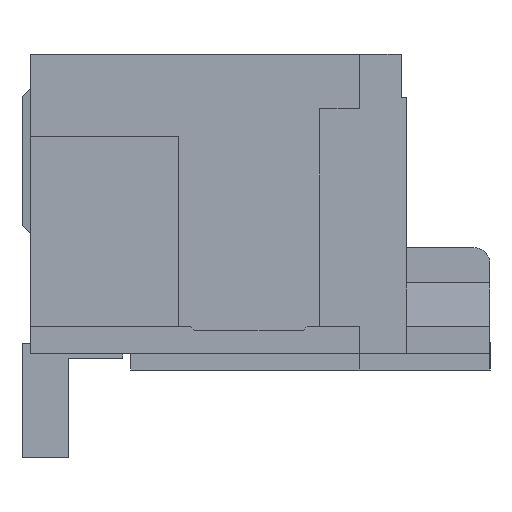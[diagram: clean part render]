
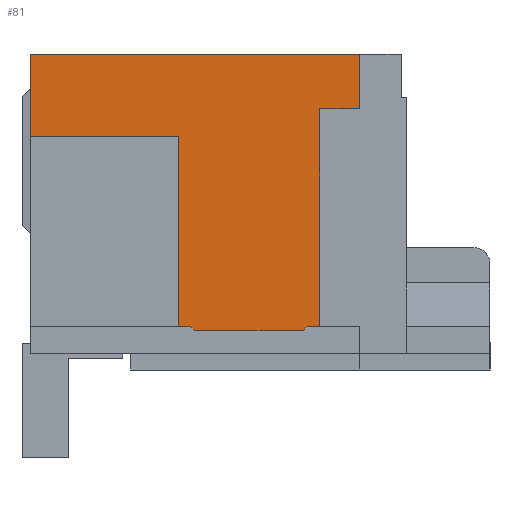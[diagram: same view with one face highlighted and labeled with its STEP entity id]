
A CAD part, left-side view. The second image highlights one B-rep face of the part: STEP entity #81.
In plain terms, the highlighted planar face has unit normal (-1, 0, 0).
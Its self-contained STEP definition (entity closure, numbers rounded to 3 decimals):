
#81=ADVANCED_FACE('',(#433),#265,.F.);
#265=PLANE('',#3538);
#433=FACE_OUTER_BOUND('',#615,.T.);
#615=EDGE_LOOP('',(#808,#809,#810,#811,#812,#813,#814,#815,#816,#817,#818,
#819));
#808=ORIENTED_EDGE('',*,*,#2108,.F.);
#809=ORIENTED_EDGE('',*,*,#2109,.F.);
#810=ORIENTED_EDGE('',*,*,#2110,.F.);
#811=ORIENTED_EDGE('',*,*,#2111,.F.);
#812=ORIENTED_EDGE('',*,*,#2112,.F.);
#813=ORIENTED_EDGE('',*,*,#2113,.F.);
#814=ORIENTED_EDGE('',*,*,#2114,.F.);
#815=ORIENTED_EDGE('',*,*,#2115,.F.);
#816=ORIENTED_EDGE('',*,*,#2116,.F.);
#817=ORIENTED_EDGE('',*,*,#2117,.F.);
#818=ORIENTED_EDGE('',*,*,#2118,.F.);
#819=ORIENTED_EDGE('',*,*,#2119,.F.);
#1792=VERTEX_POINT('',#4638);
#1793=VERTEX_POINT('',#4639);
#1794=VERTEX_POINT('',#4641);
#1795=VERTEX_POINT('',#4643);
#1796=VERTEX_POINT('',#4645);
#1797=VERTEX_POINT('',#4647);
#1798=VERTEX_POINT('',#4649);
#1799=VERTEX_POINT('',#4651);
#1800=VERTEX_POINT('',#4653);
#1801=VERTEX_POINT('',#4655);
#1802=VERTEX_POINT('',#4657);
#1803=VERTEX_POINT('',#4659);
#2108=EDGE_CURVE('',#1792,#1793,#2600,.T.);
#2109=EDGE_CURVE('',#1794,#1792,#2601,.T.);
#2110=EDGE_CURVE('',#1795,#1794,#2602,.T.);
#2111=EDGE_CURVE('',#1796,#1795,#2603,.T.);
#2112=EDGE_CURVE('',#1797,#1796,#2604,.T.);
#2113=EDGE_CURVE('',#1798,#1797,#2605,.T.);
#2114=EDGE_CURVE('',#1799,#1798,#2606,.T.);
#2115=EDGE_CURVE('',#1800,#1799,#2607,.T.);
#2116=EDGE_CURVE('',#1801,#1800,#2608,.T.);
#2117=EDGE_CURVE('',#1802,#1801,#2609,.T.);
#2118=EDGE_CURVE('',#1803,#1802,#2610,.T.);
#2119=EDGE_CURVE('',#1793,#1803,#2611,.T.);
#2600=LINE('',#4637,#3070);
#2601=LINE('',#4640,#3071);
#2602=LINE('',#4642,#3072);
#2603=LINE('',#4644,#3073);
#2604=LINE('',#4646,#3074);
#2605=LINE('',#4648,#3075);
#2606=LINE('',#4650,#3076);
#2607=LINE('',#4652,#3077);
#2608=LINE('',#4654,#3078);
#2609=LINE('',#4656,#3079);
#2610=LINE('',#4658,#3080);
#2611=LINE('',#4660,#3081);
#3070=VECTOR('',#3751,1.);
#3071=VECTOR('',#3752,1.);
#3072=VECTOR('',#3753,1.);
#3073=VECTOR('',#3754,1.);
#3074=VECTOR('',#3755,1.);
#3075=VECTOR('',#3756,1.);
#3076=VECTOR('',#3757,1.);
#3077=VECTOR('',#3758,1.);
#3078=VECTOR('',#3759,1.);
#3079=VECTOR('',#3760,1.);
#3080=VECTOR('',#3761,1.);
#3081=VECTOR('',#3762,1.);
#3538=AXIS2_PLACEMENT_3D('',#4661,#3763,#3764);
#3751=DIRECTION('',(0.,0.,1.));
#3752=DIRECTION('',(0.,1.,0.));
#3753=DIRECTION('',(0.,0.,1.));
#3754=DIRECTION('',(0.,1.,0.));
#3755=DIRECTION('',(0.,0.707,0.707));
#3756=DIRECTION('',(0.,1.,0.));
#3757=DIRECTION('',(0.,0.707,-0.707));
#3758=DIRECTION('',(0.,1.,0.));
#3759=DIRECTION('',(0.,0.,-1.));
#3760=DIRECTION('',(0.,1.,0.));
#3761=DIRECTION('',(0.,0.,-1.));
#3762=DIRECTION('',(0.,-1.,0.));
#3763=DIRECTION('',(1.,0.,0.));
#3764=DIRECTION('',(0.,0.,-1.));
#4637=CARTESIAN_POINT('',(-4.415,10.9,5.05));
#4638=CARTESIAN_POINT('',(-4.415,10.9,5.05));
#4639=CARTESIAN_POINT('',(-4.415,10.9,6.55));
#4640=CARTESIAN_POINT('',(-4.415,8.18,5.05));
#4641=CARTESIAN_POINT('',(-4.415,8.18,5.05));
#4642=CARTESIAN_POINT('',(-4.415,8.18,1.55));
#4643=CARTESIAN_POINT('',(-4.415,8.18,1.55));
#4644=CARTESIAN_POINT('',(-4.415,0.,1.55));
#4645=CARTESIAN_POINT('',(-4.415,7.95,1.55));
#4646=CARTESIAN_POINT('',(-4.415,7.88,1.48));
#4647=CARTESIAN_POINT('',(-4.415,7.88,1.48));
#4648=CARTESIAN_POINT('',(-4.415,5.88,1.48));
#4649=CARTESIAN_POINT('',(-4.415,5.88,1.48));
#4650=CARTESIAN_POINT('',(-4.415,5.68,1.68));
#4651=CARTESIAN_POINT('',(-4.415,5.81,1.55));
#4652=CARTESIAN_POINT('',(-4.415,0.,1.55));
#4653=CARTESIAN_POINT('',(-4.415,5.58,1.55));
#4654=CARTESIAN_POINT('',(-4.415,5.58,5.55));
#4655=CARTESIAN_POINT('',(-4.415,5.58,5.55));
#4656=CARTESIAN_POINT('',(-4.415,4.85,5.55));
#4657=CARTESIAN_POINT('',(-4.415,4.85,5.55));
#4658=CARTESIAN_POINT('',(-4.415,4.85,6.55));
#4659=CARTESIAN_POINT('',(-4.415,4.85,6.55));
#4660=CARTESIAN_POINT('',(-4.415,10.9,6.55));
#4661=CARTESIAN_POINT('',(-4.415,0.,0.));
